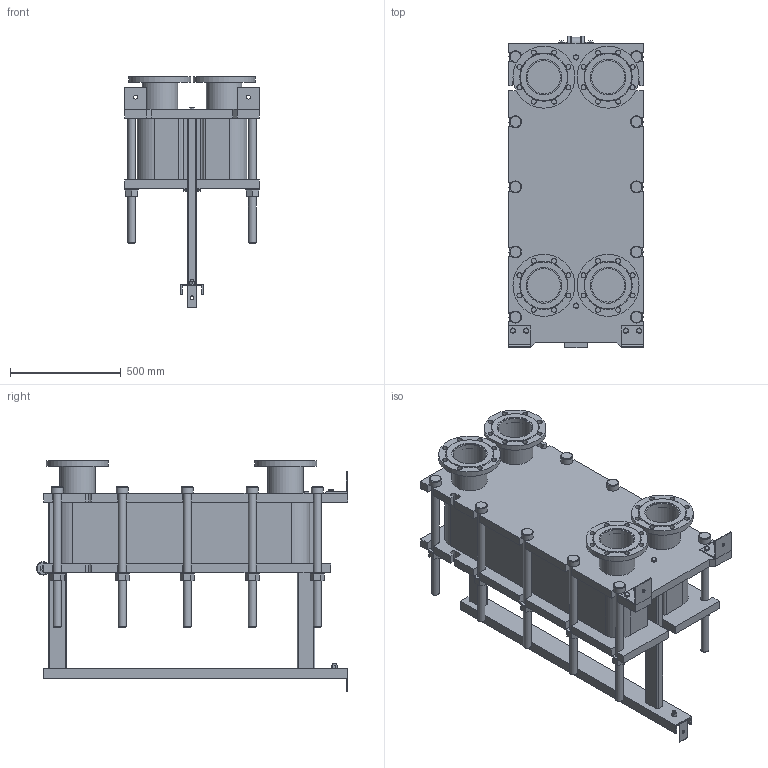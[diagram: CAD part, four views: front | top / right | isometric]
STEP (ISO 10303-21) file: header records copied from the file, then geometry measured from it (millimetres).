
FILE_DESCRIPTION(/* description */ (''),/* implementation_level */ '2;1');
FILE_NAME(/* name */ 'C:\Users\zhuro\Desktop\ENCO\TO\ЭН-041\ЭН-0,5-041-81-1.stp',/* time_stamp */ '2022-06-06T10:56:17+03:00',/* author */ ('zhuro'),/* organization */ (''),/* preprocessor_version */ 'ST-DEVELOPER v18.1',/* originating_system */ 'Autodesk Inventor 2022',/* authorisation */ '');
FILE_SCHEMA (('AUTOMOTIVE_DESIGN { 1 0 10303 214 3 1 1 }'));
Length unit declared in the file: millimetre
Products named in the file (1): ЭН-0,5-041-81-1
Bounding box: 610 x 1406.5 x 1047.5 mm (x, y, z)
Volume: 236311070.8 mm3; surface area: 8605576.7 mm2
Topology: 52 solids, 52 shells, 711 faces, 1696 edges, 1094 vertices
Faces by surface type: plane 487, cylinder 177, cone 41, torus 6
Full cylindrical faces by diameter (mm): 8 x4, 10 x2, 16 x8, 18 x3, 22 x32, 36 x24, 50 x1, 54 x10, 60 x12, 151 x4, 161 x8, 280 x4
Entity records: 22667 total; most frequent: CARTESIAN_POINT 5230, DIRECTION 3644, ORIENTED_EDGE 3392, EDGE_CURVE 1696, AXIS2_PLACEMENT_3D 1272, LINE 1100, VECTOR 1100, VERTEX_POINT 1094
